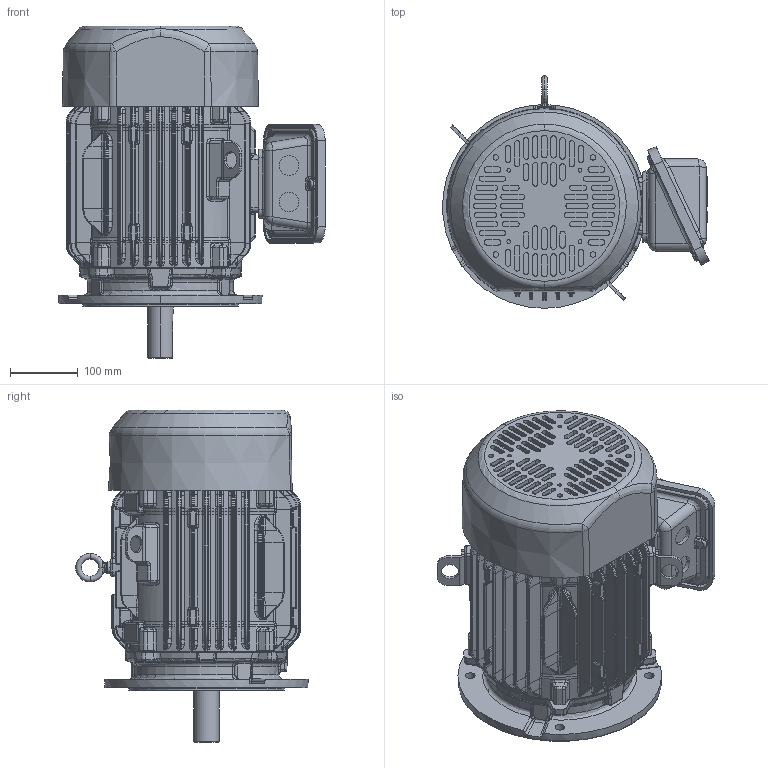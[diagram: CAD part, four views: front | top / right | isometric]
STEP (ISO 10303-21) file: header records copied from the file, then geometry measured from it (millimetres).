
FILE_DESCRIPTION((''),'2;1');
FILE_NAME('132_B5_ASM_ASM','2020-09-08T07:29:27',('EMD2341'),('Nidec Motor Corporation'),'CREO PARAMETRIC BY PTC INC, 2019080','CREO PARAMETRIC BY PTC INC, 2019080','');
FILE_SCHEMA(('CONFIG_CONTROL_DESIGN'));
Length unit declared in the file: inch
Products named in the file (11): 210_FOOTLESS_FRAME; 0133167; 210_CAST_GSK_OBB; 132_CAST_IEC; 210_CAST_GSK_OBC; 210_CAST_OBC; 210_STL_FCVR; 132_B5_BKT; 132_SHA; 2005476; 132_B5_ASM_ASM
Assembly tree (11 placements, depth 2):
  132_B5_ASM_ASM
    210_FOOTLESS_FRAME
    0133167
    210_CAST_GSK_OBB
    132_CAST_IEC
    210_CAST_GSK_OBC
    210_CAST_OBC
    210_STL_FCVR
    132_B5_BKT
    132_SHA
    2005476  x2
Bounding box: 394.3 x 344.11 x 491.49 mm (x, y, z)
Volume: 23169610.9 mm3; surface area: 1235843 mm2
Topology: 11 solids, 12 shells, 4407 faces, 10104 edges, 5816 vertices
Faces by surface type: bspline 1823, cylinder 958, plane 878, extrusion 292, torus 263, sphere 123, cone 70
Entity records: 201330 total; most frequent: CARTESIAN_POINT 115370, ORIENTED_EDGE 20086, DIRECTION 14331, EDGE_CURVE 10045, VERTEX_POINT 5780, AXIS2_PLACEMENT_3D 5469, EDGE_LOOP 4503, FACE_OUTER_BOUND 4383
